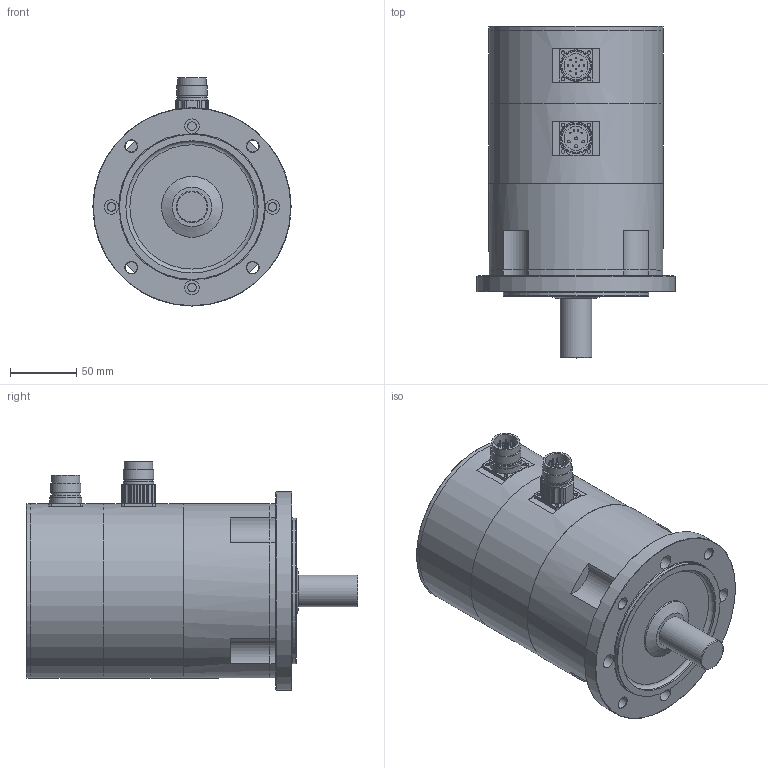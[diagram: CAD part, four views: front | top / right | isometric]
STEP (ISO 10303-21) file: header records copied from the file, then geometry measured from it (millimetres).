
FILE_DESCRIPTION(/* description */ (''),/* implementation_level */ '2;1');
FILE_NAME(/* name */ 'ksy_464e_md_r4',/* time_stamp */ '2007-03-20T15:09:16+01:00',/* author */ (''),/* organization */ (''),/* preprocessor_version */ 'ST-DEVELOPER v8',/* originating_system */ 'UNIGRAPHICS SOLUTIONS - UNIGRAPHICS 18.0',/* authorisation */ '');
FILE_SCHEMA (('AUTOMOTIVE_DESIGN { 1 2 10303 214 0 1 1 1 }'));
Length unit declared in the file: millimetre
Products named in the file (11): 014261_0; 014260_0; 064263_0; 064321_0; 114126_0; 06330101_0; DIN3760_org_A25x40x7_0; Rotor_SY 46.. E_0; Gehaeuse_SY 46.. E_0; 114119_0; KSY464_E-MD-R4_0
Assembly tree (10 placements, depth 2):
  KSY464_E-MD-R4_0
    114119_0
    Gehaeuse_SY 46.. E_0
    Rotor_SY 46.. E_0
    DIN3760_org_A25x40x7_0
    06330101_0
    114126_0
    064321_0
    064263_0
    014260_0
    014261_0
Bounding box: 150 x 251 x 172.5 mm (x, y, z)
Volume: 2252749.1 mm3; surface area: 272609 mm2
Topology: 10 solids, 10 shells, 302 faces, 744 edges, 474 vertices
Faces by surface type: cylinder 166, plane 82, cone 24, sphere 20, torus 10
Full cylindrical faces by diameter (mm): 1 x16, 2 x4, 2.7 x8, 4.5 x4, 6.5 x4, 8 x4, 9 x4, 11 x4, 18 x2, 20 x4, 21 x2, 21.5 x2, 23 x4, 23.52 x1, 23.9 x1, 24 x2, 25 x2, 25.3 x1, 30 x1, 37 x1, 40 x2, 42 x1, 43 x1, 46 x1, 52 x1, 98 x1, 100 x1, 105.3 x1, 106 x1, 106.3 x1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
Entity records: 7985 total; most frequent: DIRECTION 1514, CARTESIAN_POINT 1219, ORIENTED_EDGE 1006, AXIS2_PLACEMENT_3D 698, EDGE_LOOP 530, EDGE_CURVE 503, VERTEX_POINT 403, CIRCLE 385
